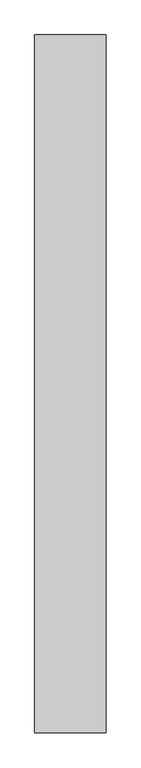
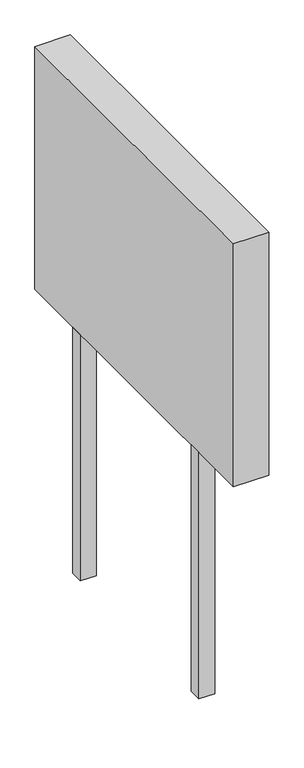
"""IFC4 building model written with IfcOpenShell, lengths in millimetres: proxy geometry, Modèles génériques 4 : Modèles génériques 4."""

from ifc_helpers import new_model, si_unit, frame, origin, place, context, project, spatial, polyline, outline, extrude, source, transform, mapped, element, save


def generic_models_2770bf2a(model_context):
    return source(origin(), model_context, "Body", "SweptSolid", [
        extrude(outline(polyline([(6269.2383271, -8059.4569856), (6269.2383271, -8013.7765886), (6324.2383271, -8013.7765886), (6324.2383271, -8059.4569856), (6269.2383271, -8059.4569856)])), frame((0.0, 0.0, 1048.0838649), z_axis=(0.0, 0.0, 1.0), x_axis=(1.0, 0.0, 0.0)), (0.0, 0.0, 1.0), 908.7244093),
        extrude(outline(polyline([(6269.2383271, -7342.5055305), (6269.2383271, -7296.8251335), (6324.2383271, -7296.8251335), (6324.2383271, -7342.5055305), (6269.2383271, -7342.5055305)])), frame((0.0, 0.0, 1048.0838649), z_axis=(0.0, 0.0, 1.0), x_axis=(1.0, 0.0, 0.0)), (0.0, 0.0, 1.0), 908.7244093),
        extrude(outline(polyline([(6269.2383271, -8268.322974), (6269.2383271, -7068.2156402), (6392.0159495, -7068.2156402), (6392.0159495, -8268.322974), (6269.2383271, -8268.322974)])), frame((0.0, 0.0, 1956.8082742), z_axis=(0.0, 0.0, 1.0), x_axis=(1.0, 0.0, 0.0)), (0.0, 0.0, 1.0), 896.1101698),
    ])


if __name__ == "__main__":
    model = new_model("IFC4")
    model_context = context("Model", 3, world=origin())
    ifc_project = project(units=[si_unit("LENGTHUNIT", "METRE", prefix="MILLI")], contexts=[model_context])
    site = spatial("IfcSite", under=ifc_project)
    building = spatial("IfcBuilding", under=site)
    placement = place(None, origin())
    generic_models_shape = generic_models_2770bf2a(model_context)
    element("IfcBuildingElementProxy", 1, Name="Modèles génériques 4 : Modèles génériques 4", ObjectType="Modèles génériques 4 : Modèles génériques 4", at=placement, inside=building, context=model_context, shape_type="MappedRepresentation", body=[
        mapped(generic_models_shape, transform((0.0, 0.0, 0.0), x_axis=(1.0, 0.0, 0.0), y_axis=(0.0, 1.0, 0.0), z_axis=(0.0, 0.0, 1.0))),
    ])
    save(model, "model.ifc")
